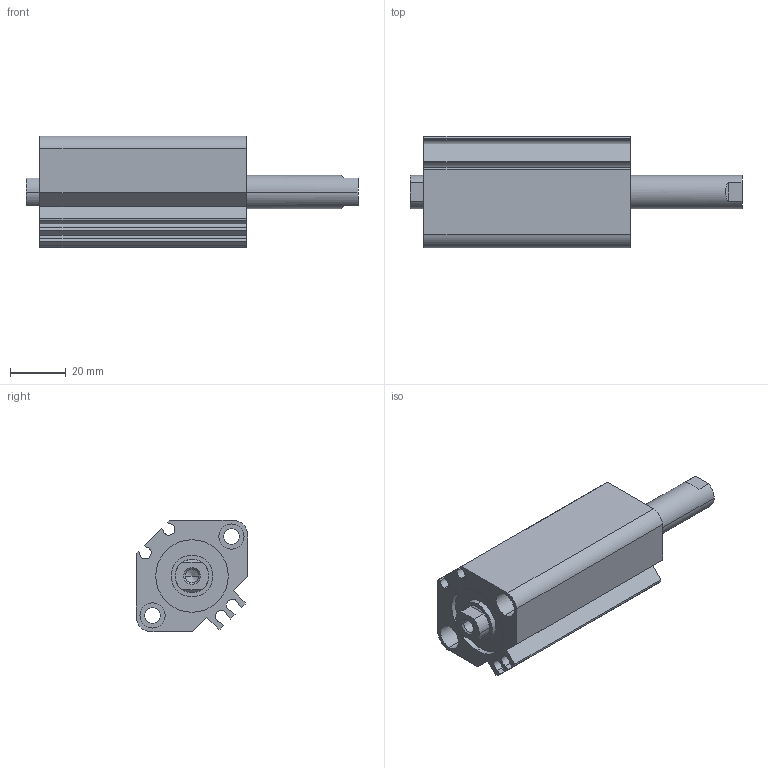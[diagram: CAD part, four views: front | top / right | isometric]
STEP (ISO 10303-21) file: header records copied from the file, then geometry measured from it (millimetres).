
FILE_DESCRIPTION (( 'STEP AP203' ), '1' );
FILE_NAME ('CCMB25-35F-P.STEP', '2020-08-05T11:10:27', ( '' ), ( '' ), 'SwSTEP 2.0', 'SolidWorks 2019', '' );
FILE_SCHEMA (( 'CONFIG_CONTROL_DESIGN' ));
Length unit declared in the file: millimetre
Products named in the file (1): CCMB25-35F-P
Bounding box: 119 x 40 x 40 mm (x, y, z)
Volume: 84334.4 mm3; surface area: 31877.6 mm2
Topology: 2 solids, 2 shells, 114 faces, 276 edges, 178 vertices
Faces by surface type: cylinder 52, plane 50, cone 12
Entity records: 3419 total; most frequent: DIRECTION 614, CARTESIAN_POINT 577, ORIENTED_EDGE 544, EDGE_CURVE 272, AXIS2_PLACEMENT_3D 231, VERTEX_POINT 178, LINE 152, VECTOR 152
